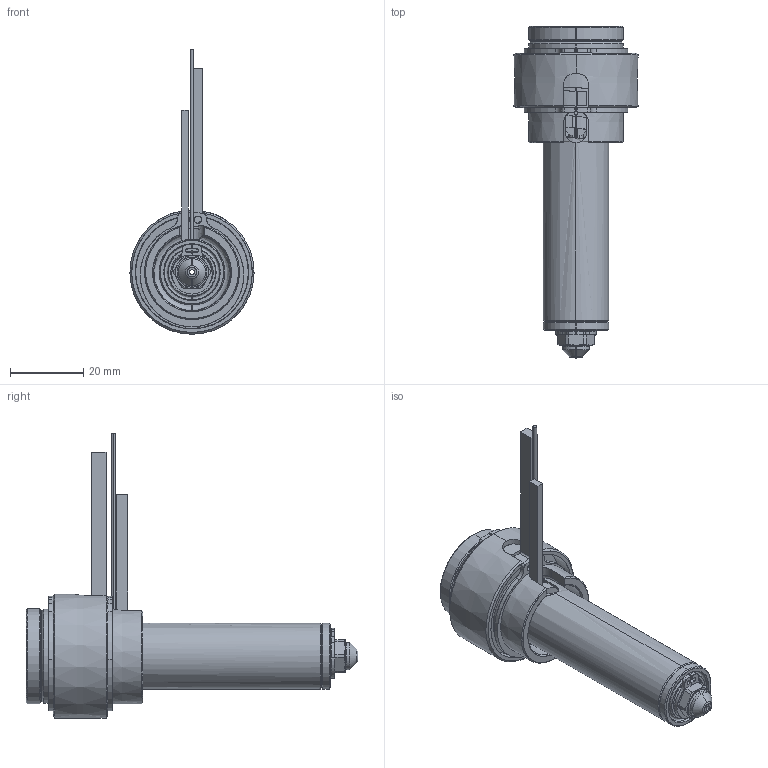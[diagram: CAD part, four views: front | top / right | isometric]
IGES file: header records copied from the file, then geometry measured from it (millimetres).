
Start section: SolidWorks IGES file using analytic representation for surfaces
Global section: file name: C:\Documents and Settings\ws-20\Desktop\TEM\UGER2502-S-A-0 [Øb-1.30 ØC-4.0].IGS; native system: SolidWorks 2012; preprocessor: SolidWorks 2012; author: ws-20; date: 120405.101807; units: millimetre
Bounding box: 34 x 90.9 x 77.9 mm (x, y, z)
Surface area: 22133.9 mm2 (no closed solid volume)
Topology: 0 solids, 0 shells, 205 faces, 2659 edges, 2659 vertices
Faces by surface type: revolution 132, bspline 73
